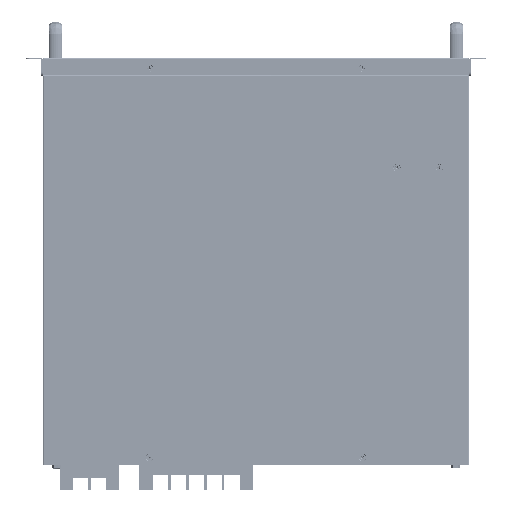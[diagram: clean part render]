
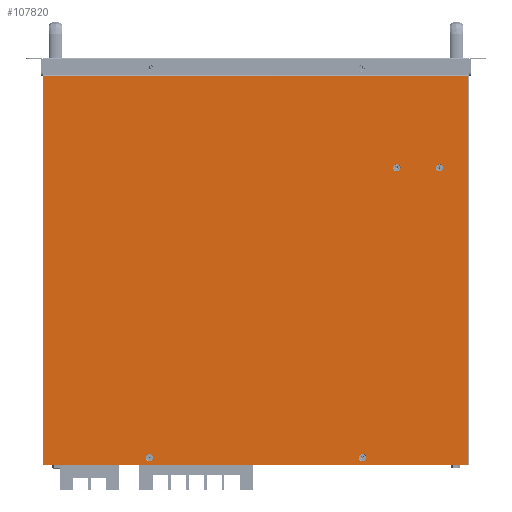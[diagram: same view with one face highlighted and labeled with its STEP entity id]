
A CAD part, front view. The second image highlights one B-rep face of the part: STEP entity #107820.
In plain terms, the highlighted planar face has unit normal (0, -1, 0).
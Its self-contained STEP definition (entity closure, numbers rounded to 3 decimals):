
#465 = VECTOR ( 'NONE', #418355, 1000. ) ;
#774 = EDGE_LOOP ( 'NONE', ( #233737, #116887, #136709, #271290 ) ) ;
#2357 = CARTESIAN_POINT ( 'NONE',  ( -250., -1.5, -228.5 ) ) ;
#11468 = CARTESIAN_POINT ( 'NONE',  ( 248.4, -1.5, 226.9 ) ) ;
#19990 = VERTEX_POINT ( 'NONE', #21688 ) ;
#21688 = CARTESIAN_POINT ( 'NONE',  ( 125., -1.5, -215.7 ) ) ;
#26865 = DIRECTION ( 'NONE',  ( 0., -1., 0. ) ) ;
#26988 = CARTESIAN_POINT ( 'NONE',  ( -125., -1.5, -215.7 ) ) ;
#28686 = EDGE_CURVE ( 'NONE', #190205, #282717, #340091, .T. ) ;
#29071 = CARTESIAN_POINT ( 'NONE',  ( 215.2, -1.5, 119.8 ) ) ;
#33008 = CIRCLE ( 'NONE', #185073, 4.3 ) ;
#33170 = LINE ( 'NONE', #69375, #465 ) ;
#40571 = EDGE_CURVE ( 'NONE', #74357, #278938, #290461, .T. ) ;
#44333 = DIRECTION ( 'NONE',  ( 1., 0., 0. ) ) ;
#45020 = CARTESIAN_POINT ( 'NONE',  ( -125., -1.5, -224.3 ) ) ;
#46585 = PLANE ( 'NONE',  #159781 ) ;
#63237 = CIRCLE ( 'NONE', #121199, 4.3 ) ;
#66220 = ORIENTED_EDGE ( 'NONE', *, *, #338573, .F. ) ;
#69375 = CARTESIAN_POINT ( 'NONE',  ( 248.4, -1.5, -228.5 ) ) ;
#74357 = VERTEX_POINT ( 'NONE', #97541 ) ;
#77567 = CIRCLE ( 'NONE', #330861, 4.3 ) ;
#78552 = DIRECTION ( 'NONE',  ( 0., -1., 0. ) ) ;
#80558 = VECTOR ( 'NONE', #376358, 1000. ) ;
#82745 = ORIENTED_EDGE ( 'NONE', *, *, #433079, .F. ) ;
#83030 = CARTESIAN_POINT ( 'NONE',  ( 165.2, -1.5, 119.8 ) ) ;
#84842 = EDGE_CURVE ( 'NONE', #19990, #134051, #77567, .T. ) ;
#88189 = DIRECTION ( 'NONE',  ( 0., 0., -1. ) ) ;
#94863 = DIRECTION ( 'NONE',  ( 0., 0., -1. ) ) ;
#97541 = CARTESIAN_POINT ( 'NONE',  ( 215.2, -1.5, 124.1 ) ) ;
#100013 = EDGE_CURVE ( 'NONE', #364988, #306637, #33008, .T. ) ;
#103813 = CARTESIAN_POINT ( 'NONE',  ( 165.2, -1.5, 124.1 ) ) ;
#104410 = DIRECTION ( 'NONE',  ( 0., 0., -1. ) ) ;
#107820 = ADVANCED_FACE ( 'NONE', ( #395535, #325264, #214397, #352591, #110126 ), #46585, .F. ) ;
#108866 = CARTESIAN_POINT ( 'NONE',  ( 248.4, -1.5, 226.9 ) ) ;
#110126 = FACE_OUTER_BOUND ( 'NONE', #774, .T. ) ;
#111299 = EDGE_CURVE ( 'NONE', #319112, #435280, #326641, .T. ) ;
#116887 = ORIENTED_EDGE ( 'NONE', *, *, #194633, .T. ) ;
#118305 = AXIS2_PLACEMENT_3D ( 'NONE', #264965, #378052, #133363 ) ;
#121199 = AXIS2_PLACEMENT_3D ( 'NONE', #276666, #414893, #104410 ) ;
#123633 = CARTESIAN_POINT ( 'NONE',  ( 248.4, -1.5, -228.5 ) ) ;
#133363 = DIRECTION ( 'NONE',  ( 0., 0., -1. ) ) ;
#134051 = VERTEX_POINT ( 'NONE', #269707 ) ;
#136709 = ORIENTED_EDGE ( 'NONE', *, *, #28686, .F. ) ;
#145464 = DIRECTION ( 'NONE',  ( 0., 0., -1. ) ) ;
#158465 = CARTESIAN_POINT ( 'NONE',  ( -125., -1.5, -220. ) ) ;
#159167 = EDGE_LOOP ( 'NONE', ( #66220, #336923 ) ) ;
#159781 = AXIS2_PLACEMENT_3D ( 'NONE', #388843, #184816, #44333 ) ;
#169272 = VERTEX_POINT ( 'NONE', #247159 ) ;
#172141 = CIRCLE ( 'NONE', #331267, 4.3 ) ;
#177869 = AXIS2_PLACEMENT_3D ( 'NONE', #251496, #249255, #285454 ) ;
#184816 = DIRECTION ( 'NONE',  ( 0., 1., 0. ) ) ;
#185073 = AXIS2_PLACEMENT_3D ( 'NONE', #158465, #260470, #88189 ) ;
#187590 = CARTESIAN_POINT ( 'NONE',  ( -248.4, -1.5, 228.5 ) ) ;
#190205 = VERTEX_POINT ( 'NONE', #123633 ) ;
#193529 = ORIENTED_EDGE ( 'NONE', *, *, #100013, .F. ) ;
#194281 = LINE ( 'NONE', #187590, #390870 ) ;
#194633 = EDGE_CURVE ( 'NONE', #169272, #282717, #194281, .T. ) ;
#209463 = EDGE_LOOP ( 'NONE', ( #193529, #409908 ) ) ;
#213721 = VECTOR ( 'NONE', #432865, 1000. ) ;
#214397 = FACE_BOUND ( 'NONE', #159167, .T. ) ;
#220661 = EDGE_CURVE ( 'NONE', #190205, #373704, #33170, .T. ) ;
#221529 = CIRCLE ( 'NONE', #177869, 4.3 ) ;
#233327 = CARTESIAN_POINT ( 'NONE',  ( -248.4, -1.5, -228.5 ) ) ;
#233737 = ORIENTED_EDGE ( 'NONE', *, *, #287379, .T. ) ;
#238918 = ORIENTED_EDGE ( 'NONE', *, *, #84842, .F. ) ;
#245437 = EDGE_CURVE ( 'NONE', #278938, #74357, #335299, .T. ) ;
#247159 = CARTESIAN_POINT ( 'NONE',  ( -248.4, -1.5, 226.9 ) ) ;
#249255 = DIRECTION ( 'NONE',  ( 0., -1., 0. ) ) ;
#251496 = CARTESIAN_POINT ( 'NONE',  ( 125., -1.5, -220. ) ) ;
#253238 = CARTESIAN_POINT ( 'NONE',  ( 165.2, -1.5, 119.8 ) ) ;
#260470 = DIRECTION ( 'NONE',  ( 0., -1., 0. ) ) ;
#264965 = CARTESIAN_POINT ( 'NONE',  ( 215.2, -1.5, 119.8 ) ) ;
#269707 = CARTESIAN_POINT ( 'NONE',  ( 125., -1.5, -224.3 ) ) ;
#271290 = ORIENTED_EDGE ( 'NONE', *, *, #220661, .T. ) ;
#276666 = CARTESIAN_POINT ( 'NONE',  ( -125., -1.5, -220. ) ) ;
#278938 = VERTEX_POINT ( 'NONE', #396771 ) ;
#282717 = VERTEX_POINT ( 'NONE', #233327 ) ;
#285454 = DIRECTION ( 'NONE',  ( 0., 0., -1. ) ) ;
#287379 = EDGE_CURVE ( 'NONE', #373704, #169272, #321931, .T. ) ;
#290461 = CIRCLE ( 'NONE', #362923, 4.3 ) ;
#304266 = ORIENTED_EDGE ( 'NONE', *, *, #245437, .F. ) ;
#306637 = VERTEX_POINT ( 'NONE', #26988 ) ;
#315479 = DIRECTION ( 'NONE',  ( 0., -1., 0. ) ) ;
#319112 = VERTEX_POINT ( 'NONE', #103813 ) ;
#321931 = LINE ( 'NONE', #11468, #213721 ) ;
#323423 = DIRECTION ( 'NONE',  ( 0., 0., -1. ) ) ;
#325264 = FACE_BOUND ( 'NONE', #347323, .T. ) ;
#326641 = CIRCLE ( 'NONE', #341483, 4.3 ) ;
#330861 = AXIS2_PLACEMENT_3D ( 'NONE', #347224, #315479, #145464 ) ;
#331267 = AXIS2_PLACEMENT_3D ( 'NONE', #83030, #78552, #397965 ) ;
#332480 = DIRECTION ( 'NONE',  ( 0., 0., -1. ) ) ;
#335299 = CIRCLE ( 'NONE', #118305, 4.3 ) ;
#336923 = ORIENTED_EDGE ( 'NONE', *, *, #111299, .F. ) ;
#338573 = EDGE_CURVE ( 'NONE', #435280, #319112, #172141, .T. ) ;
#340091 = LINE ( 'NONE', #2357, #80558 ) ;
#341483 = AXIS2_PLACEMENT_3D ( 'NONE', #253238, #391429, #323423 ) ;
#347224 = CARTESIAN_POINT ( 'NONE',  ( 125., -1.5, -220. ) ) ;
#347323 = EDGE_LOOP ( 'NONE', ( #82745, #238918 ) ) ;
#352591 = FACE_BOUND ( 'NONE', #369643, .T. ) ;
#361397 = ORIENTED_EDGE ( 'NONE', *, *, #40571, .F. ) ;
#362923 = AXIS2_PLACEMENT_3D ( 'NONE', #29071, #26865, #94863 ) ;
#364988 = VERTEX_POINT ( 'NONE', #45020 ) ;
#369643 = EDGE_LOOP ( 'NONE', ( #304266, #361397 ) ) ;
#373704 = VERTEX_POINT ( 'NONE', #108866 ) ;
#376358 = DIRECTION ( 'NONE',  ( -1., 0., 0. ) ) ;
#377223 = EDGE_CURVE ( 'NONE', #306637, #364988, #63237, .T. ) ;
#378052 = DIRECTION ( 'NONE',  ( 0., -1., 0. ) ) ;
#388843 = CARTESIAN_POINT ( 'NONE',  ( 0., -1.5, 0. ) ) ;
#390870 = VECTOR ( 'NONE', #332480, 1000. ) ;
#391429 = DIRECTION ( 'NONE',  ( 0., -1., 0. ) ) ;
#395535 = FACE_BOUND ( 'NONE', #209463, .T. ) ;
#396771 = CARTESIAN_POINT ( 'NONE',  ( 215.2, -1.5, 115.5 ) ) ;
#397965 = DIRECTION ( 'NONE',  ( 0., 0., -1. ) ) ;
#402035 = CARTESIAN_POINT ( 'NONE',  ( 165.2, -1.5, 115.5 ) ) ;
#409908 = ORIENTED_EDGE ( 'NONE', *, *, #377223, .F. ) ;
#414893 = DIRECTION ( 'NONE',  ( 0., -1., 0. ) ) ;
#418355 = DIRECTION ( 'NONE',  ( 0., 0., 1. ) ) ;
#432865 = DIRECTION ( 'NONE',  ( -1., 0., 0. ) ) ;
#433079 = EDGE_CURVE ( 'NONE', #134051, #19990, #221529, .T. ) ;
#435280 = VERTEX_POINT ( 'NONE', #402035 ) ;
